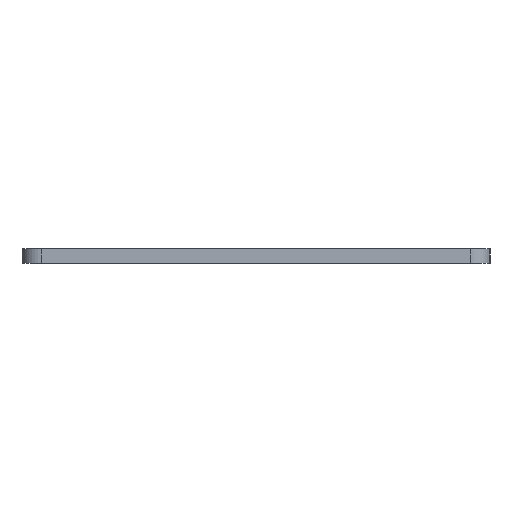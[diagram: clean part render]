
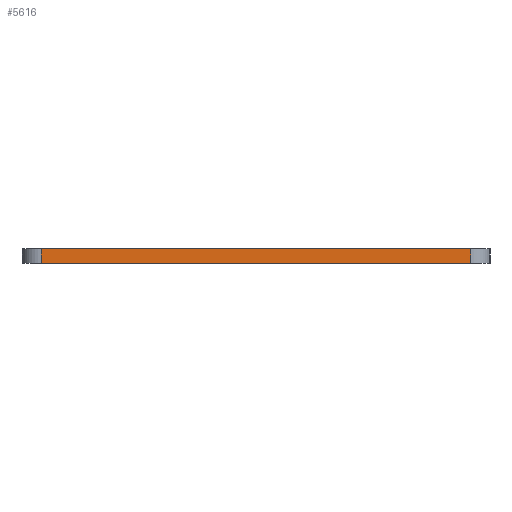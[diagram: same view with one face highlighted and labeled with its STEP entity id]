
A CAD part, left-side view. The second image highlights one B-rep face of the part: STEP entity #5616.
In plain terms, the highlighted planar face has unit normal (-1, 0, 0).
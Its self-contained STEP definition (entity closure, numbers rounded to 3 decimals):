
#330=PLANE('',#5979);
#570=FACE_OUTER_BOUND('',#901,.T.);
#901=EDGE_LOOP('',(#4013,#4014,#4015,#4016));
#1255=LINE('',#7479,#1880);
#1260=LINE('',#7530,#1885);
#1261=LINE('',#7533,#1886);
#1262=LINE('',#7534,#1887);
#1880=VECTOR('',#6284,10.);
#1885=VECTOR('',#6337,10.);
#1886=VECTOR('',#6340,10.);
#1887=VECTOR('',#6341,10.);
#2564=VERTEX_POINT('',#7476);
#2565=VERTEX_POINT('',#7478);
#2587=VERTEX_POINT('',#7528);
#2588=VERTEX_POINT('',#7532);
#3128=EDGE_CURVE('',#2565,#2564,#1255,.T.);
#3154=EDGE_CURVE('',#2565,#2587,#1260,.T.);
#3155=EDGE_CURVE('',#2588,#2564,#1261,.T.);
#3156=EDGE_CURVE('',#2587,#2588,#1262,.T.);
#4013=ORIENTED_EDGE('',*,*,#3154,.F.);
#4014=ORIENTED_EDGE('',*,*,#3128,.T.);
#4015=ORIENTED_EDGE('',*,*,#3155,.F.);
#4016=ORIENTED_EDGE('',*,*,#3156,.F.);
#5616=ADVANCED_FACE('',(#570),#330,.T.);
#5979=AXIS2_PLACEMENT_3D('',#7531,#6338,#6339);
#6284=DIRECTION('',(0.,1.,0.));
#6337=DIRECTION('',(0.,0.,-1.));
#6338=DIRECTION('center_axis',(-1.,0.,0.));
#6339=DIRECTION('ref_axis',(0.,1.,0.));
#6340=DIRECTION('',(0.,0.,1.));
#6341=DIRECTION('',(0.,1.,0.));
#7476=CARTESIAN_POINT('',(-40.,36.,0.));
#7478=CARTESIAN_POINT('',(-40.,-53.,0.));
#7479=CARTESIAN_POINT('',(-40.,-57.,0.));
#7528=CARTESIAN_POINT('',(-40.,-53.,-3.));
#7530=CARTESIAN_POINT('',(-40.,-53.,0.));
#7531=CARTESIAN_POINT('Origin',(-40.,-57.,0.));
#7532=CARTESIAN_POINT('',(-40.,36.,-3.));
#7533=CARTESIAN_POINT('',(-40.,36.,0.));
#7534=CARTESIAN_POINT('',(-40.,-57.,-3.));
